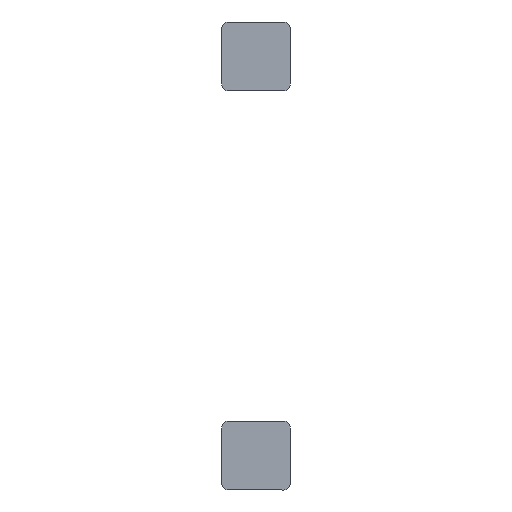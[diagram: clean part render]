
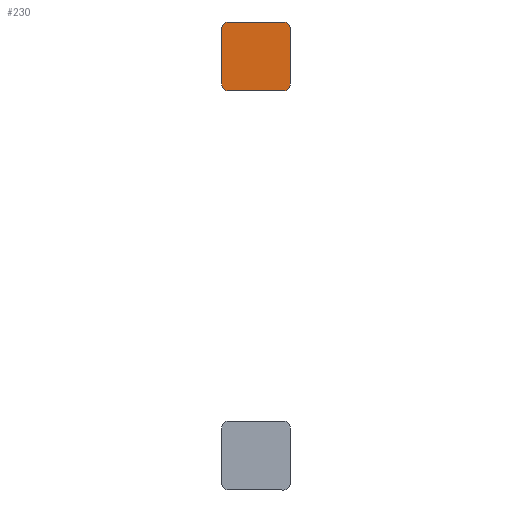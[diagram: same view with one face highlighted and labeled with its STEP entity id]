
A CAD part, left-side view. The second image highlights one B-rep face of the part: STEP entity #230.
In plain terms, the highlighted planar face has unit normal (-1, 0, 0).
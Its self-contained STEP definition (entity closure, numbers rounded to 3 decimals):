
#20 = EDGE_CURVE ( 'NONE', #364, #77, #557, .T. ) ;
#30 = CARTESIAN_POINT ( 'NONE',  ( -3999.807, -3872., -2817.72 ) ) ;
#32 = CARTESIAN_POINT ( 'NONE',  ( -3999.807, -3869.5, -2815.22 ) ) ;
#36 = VERTEX_POINT ( 'NONE', #246 ) ;
#44 = ORIENTED_EDGE ( 'NONE', *, *, #545, .T. ) ;
#45 = AXIS2_PLACEMENT_3D ( 'NONE', #117, #503, #360 ) ;
#47 = CARTESIAN_POINT ( 'NONE',  ( -3999.807, -3849.5, -2840.22 ) ) ;
#50 = DIRECTION ( 'NONE',  ( 0., 1., 0. ) ) ;
#63 = EDGE_CURVE ( 'NONE', #77, #336, #242, .T. ) ;
#64 = PLANE ( 'NONE',  #45 ) ;
#68 = CIRCLE ( 'NONE', #318, 2.5 ) ;
#70 = ORIENTED_EDGE ( 'NONE', *, *, #571, .T. ) ;
#71 = CARTESIAN_POINT ( 'NONE',  ( -3999.807, -3869.351, -2840.22 ) ) ;
#77 = VERTEX_POINT ( 'NONE', #32 ) ;
#85 = VECTOR ( 'NONE', #183, 1000. ) ;
#95 = DIRECTION ( 'NONE',  ( 0., 1., 0. ) ) ;
#105 = DIRECTION ( 'NONE',  ( -1., 0., 0. ) ) ;
#110 = CIRCLE ( 'NONE', #366, 2.5 ) ;
#117 = CARTESIAN_POINT ( 'NONE',  ( -3999.807, -3859.5, -2827.72 ) ) ;
#128 = ORIENTED_EDGE ( 'NONE', *, *, #63, .T. ) ;
#138 = CARTESIAN_POINT ( 'NONE',  ( -3999.807, -3847., -2837.72 ) ) ;
#145 = CARTESIAN_POINT ( 'NONE',  ( -3999.807, -3869.351, -2815.22 ) ) ;
#147 = VECTOR ( 'NONE', #542, 1000. ) ;
#160 = DIRECTION ( 'NONE',  ( -1., 0., 0. ) ) ;
#169 = ORIENTED_EDGE ( 'NONE', *, *, #535, .T. ) ;
#170 = EDGE_CURVE ( 'NONE', #450, #204, #110, .T. ) ;
#173 = CIRCLE ( 'NONE', #622, 2.5 ) ;
#175 = VECTOR ( 'NONE', #231, 1000. ) ;
#178 = LINE ( 'NONE', #370, #175 ) ;
#183 = DIRECTION ( 'NONE',  ( 0., 1., 0. ) ) ;
#204 = VERTEX_POINT ( 'NONE', #47 ) ;
#230 = ADVANCED_FACE ( 'NONE', ( #551 ), #64, .T. ) ;
#231 = DIRECTION ( 'NONE',  ( 0., 0., 1. ) ) ;
#242 = LINE ( 'NONE', #145, #85 ) ;
#246 = CARTESIAN_POINT ( 'NONE',  ( -3999.807, -3869.5, -2840.22 ) ) ;
#250 = LINE ( 'NONE', #71, #313 ) ;
#288 = DIRECTION ( 'NONE',  ( 0., 1., 0. ) ) ;
#313 = VECTOR ( 'NONE', #358, 1000. ) ;
#318 = AXIS2_PLACEMENT_3D ( 'NONE', #631, #105, #50 ) ;
#336 = VERTEX_POINT ( 'NONE', #412 ) ;
#358 = DIRECTION ( 'NONE',  ( 0., -1., 0. ) ) ;
#360 = DIRECTION ( 'NONE',  ( 0., -1., 0. ) ) ;
#364 = VERTEX_POINT ( 'NONE', #30 ) ;
#366 = AXIS2_PLACEMENT_3D ( 'NONE', #498, #160, #95 ) ;
#370 = CARTESIAN_POINT ( 'NONE',  ( -3999.807, -3872., -2819.228 ) ) ;
#372 = CARTESIAN_POINT ( 'NONE',  ( -3999.807, -3847., -2817.72 ) ) ;
#386 = EDGE_CURVE ( 'NONE', #36, #391, #173, .T. ) ;
#391 = VERTEX_POINT ( 'NONE', #523 ) ;
#399 = CARTESIAN_POINT ( 'NONE',  ( -3999.807, -3847., -2819.228 ) ) ;
#402 = ORIENTED_EDGE ( 'NONE', *, *, #170, .T. ) ;
#412 = CARTESIAN_POINT ( 'NONE',  ( -3999.807, -3849.5, -2815.22 ) ) ;
#429 = CARTESIAN_POINT ( 'NONE',  ( -3999.807, -3869.5, -2837.72 ) ) ;
#430 = EDGE_LOOP ( 'NONE', ( #585, #128, #44, #169, #402, #70, #552, #522 ) ) ;
#435 = EDGE_CURVE ( 'NONE', #391, #364, #178, .T. ) ;
#442 = VERTEX_POINT ( 'NONE', #372 ) ;
#447 = AXIS2_PLACEMENT_3D ( 'NONE', #579, #618, #288 ) ;
#450 = VERTEX_POINT ( 'NONE', #138 ) ;
#498 = CARTESIAN_POINT ( 'NONE',  ( -3999.807, -3849.5, -2837.72 ) ) ;
#503 = DIRECTION ( 'NONE',  ( -1., 0., 0. ) ) ;
#515 = DIRECTION ( 'NONE',  ( -1., 0., 0. ) ) ;
#522 = ORIENTED_EDGE ( 'NONE', *, *, #435, .T. ) ;
#523 = CARTESIAN_POINT ( 'NONE',  ( -3999.807, -3872., -2837.72 ) ) ;
#535 = EDGE_CURVE ( 'NONE', #442, #450, #578, .T. ) ;
#542 = DIRECTION ( 'NONE',  ( 0., 0., -1. ) ) ;
#545 = EDGE_CURVE ( 'NONE', #336, #442, #68, .T. ) ;
#551 = FACE_OUTER_BOUND ( 'NONE', #430, .T. ) ;
#552 = ORIENTED_EDGE ( 'NONE', *, *, #386, .T. ) ;
#557 = CIRCLE ( 'NONE', #447, 2.5 ) ;
#571 = EDGE_CURVE ( 'NONE', #204, #36, #250, .T. ) ;
#578 = LINE ( 'NONE', #399, #147 ) ;
#579 = CARTESIAN_POINT ( 'NONE',  ( -3999.807, -3869.5, -2817.72 ) ) ;
#585 = ORIENTED_EDGE ( 'NONE', *, *, #20, .T. ) ;
#616 = DIRECTION ( 'NONE',  ( 0., 1., 0. ) ) ;
#618 = DIRECTION ( 'NONE',  ( -1., 0., 0. ) ) ;
#622 = AXIS2_PLACEMENT_3D ( 'NONE', #429, #515, #616 ) ;
#631 = CARTESIAN_POINT ( 'NONE',  ( -3999.807, -3849.5, -2817.72 ) ) ;
